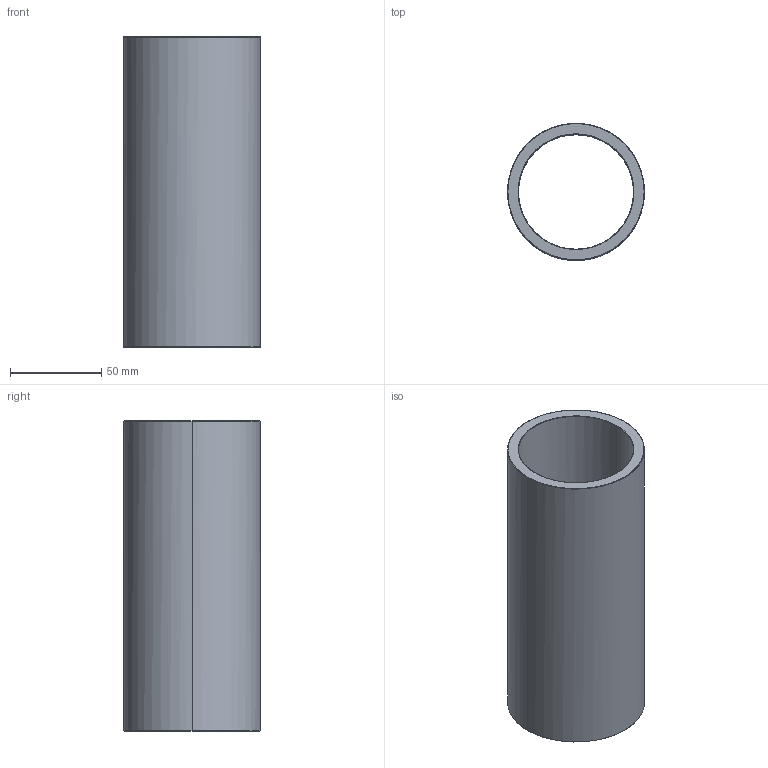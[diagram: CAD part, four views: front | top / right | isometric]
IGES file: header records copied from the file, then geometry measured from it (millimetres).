
Start section: Write IGES format                                    datakit 2008 (c)
Global section: file name: Unknown; native system: DATAKIT Converter; preprocessor: Unknown; author: Unknown; organization: Unknown; date: 950613.180003; units: millimetre
Bounding box: 75 x 74.87 x 170 mm (x, y, z)
Surface area: 76201.4 mm2 (no closed solid volume)
Topology: 0 solids, 0 shells, 14 faces, 56 edges, 56 vertices
Faces by surface type: revolution 12, bspline 2
